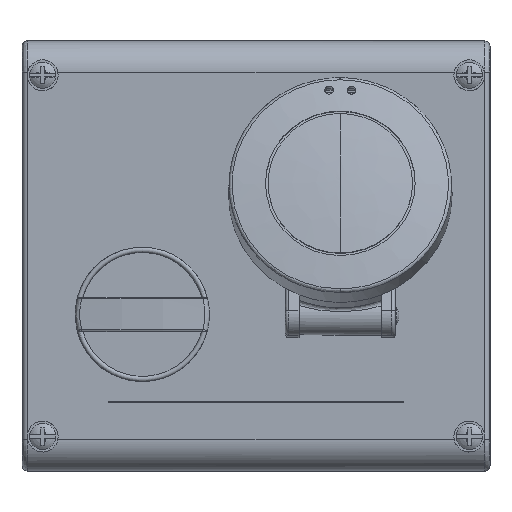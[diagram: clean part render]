
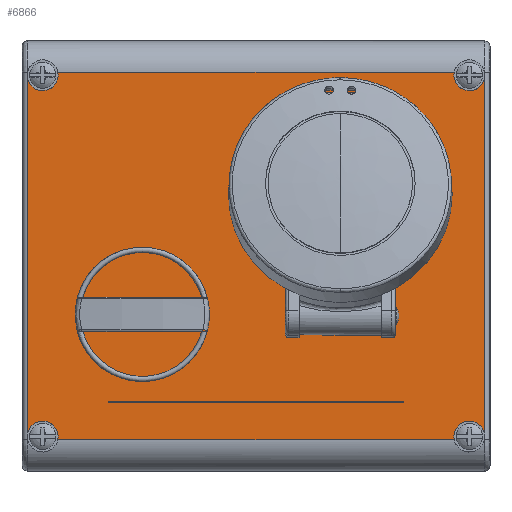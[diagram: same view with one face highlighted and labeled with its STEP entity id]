
A CAD part, top view. The second image highlights one B-rep face of the part: STEP entity #6866.
In plain terms, the highlighted planar face has unit normal (0, 0, 1).
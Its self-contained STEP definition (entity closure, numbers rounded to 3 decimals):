
#5066=PLANE('',#24940);
#5391=FACE_BOUND('',#8605,.T.);
#5392=FACE_BOUND('',#8606,.T.);
#5393=FACE_BOUND('',#8607,.T.);
#5617=CIRCLE('',#24913,4.5);
#5619=CIRCLE('',#24916,4.5);
#5625=CIRCLE('',#24938,4.5);
#5626=CIRCLE('',#24939,4.5);
#6411=B_SPLINE_CURVE_WITH_KNOTS('',3,(#33998,#33999,#34000,#34001,#34002,
#34003,#34004,#34005,#34006,#34007,#34008),.UNSPECIFIED.,.F.,.F.,(4,1,1,
1,1,1,1,1,4),(0.,0.063,0.127,0.253,0.5,
0.747,0.873,0.937,1.),.UNSPECIFIED.);
#6412=B_SPLINE_CURVE_WITH_KNOTS('',3,(#34012,#34013,#34014,#34015,#34016,
#34017,#34018,#34019,#34020,#34021,#34022),.UNSPECIFIED.,.F.,.F.,(4,1,1,
1,1,1,1,1,4),(0.,0.063,0.127,0.253,
0.5,0.747,0.873,0.937,
1.),.UNSPECIFIED.);
#6866=ADVANCED_FACE('',(#5391,#5392,#5393),#5066,.T.);
#8605=EDGE_LOOP('',(#10139,#10140,#10141,#10142,#10143,#10144,#10145,#10146));
#8606=EDGE_LOOP('',(#10147,#10148,#10149,#10150));
#8607=EDGE_LOOP('',(#10151,#10152,#10153,#10154,#10155,#10156,#10157,#10158,
#10159,#10160,#10161,#10162));
#9436=ELLIPSE('',#24825,25.623,24.75);
#9437=ELLIPSE('',#24827,25.623,24.75);
#9438=ELLIPSE('',#24829,25.623,24.75);
#9454=ELLIPSE('',#24865,6.212,6.);
#9458=ELLIPSE('',#24875,1.035,1.);
#9468=ELLIPSE('',#24934,1.035,1.);
#10139=ORIENTED_EDGE('',*,*,#17093,.T.);
#10140=ORIENTED_EDGE('',*,*,#17148,.F.);
#10141=ORIENTED_EDGE('',*,*,#17112,.T.);
#10142=ORIENTED_EDGE('',*,*,#17118,.F.);
#10143=ORIENTED_EDGE('',*,*,#17099,.T.);
#10144=ORIENTED_EDGE('',*,*,#17149,.F.);
#10145=ORIENTED_EDGE('',*,*,#17127,.T.);
#10146=ORIENTED_EDGE('',*,*,#17120,.F.);
#10147=ORIENTED_EDGE('',*,*,#17150,.T.);
#10148=ORIENTED_EDGE('',*,*,#17151,.T.);
#10149=ORIENTED_EDGE('',*,*,#17152,.T.);
#10150=ORIENTED_EDGE('',*,*,#17130,.F.);
#10151=ORIENTED_EDGE('',*,*,#16963,.T.);
#10152=ORIENTED_EDGE('',*,*,#17153,.T.);
#10153=ORIENTED_EDGE('',*,*,#17024,.F.);
#10154=ORIENTED_EDGE('',*,*,#17154,.F.);
#10155=ORIENTED_EDGE('',*,*,#17155,.T.);
#10156=ORIENTED_EDGE('',*,*,#16958,.T.);
#10157=ORIENTED_EDGE('',*,*,#17156,.T.);
#10158=ORIENTED_EDGE('',*,*,#17141,.T.);
#10159=ORIENTED_EDGE('',*,*,#17147,.T.);
#10160=ORIENTED_EDGE('',*,*,#17144,.F.);
#10161=ORIENTED_EDGE('',*,*,#16953,.T.);
#10162=ORIENTED_EDGE('',*,*,#17014,.T.);
#14292=VERTEX_POINT('',#32756);
#14293=VERTEX_POINT('',#32758);
#14297=VERTEX_POINT('',#32781);
#14298=VERTEX_POINT('',#32783);
#14302=VERTEX_POINT('',#32806);
#14303=VERTEX_POINT('',#32808);
#14348=VERTEX_POINT('',#32956);
#14350=VERTEX_POINT('',#32959);
#14401=VERTEX_POINT('',#33353);
#14402=VERTEX_POINT('',#33355);
#14406=VERTEX_POINT('',#33432);
#14407=VERTEX_POINT('',#33434);
#14414=VERTEX_POINT('',#33730);
#14415=VERTEX_POINT('',#33732);
#14419=VERTEX_POINT('',#33911);
#14424=VERTEX_POINT('',#33942);
#14426=VERTEX_POINT('',#33957);
#14427=VERTEX_POINT('',#33959);
#14432=VERTEX_POINT('',#33981);
#14433=VERTEX_POINT('',#33983);
#14434=VERTEX_POINT('',#33988);
#14435=VERTEX_POINT('',#34009);
#14436=VERTEX_POINT('',#34011);
#14437=VERTEX_POINT('',#34025);
#16953=EDGE_CURVE('',#14293,#14292,#9436,.T.);
#16958=EDGE_CURVE('',#14298,#14297,#9437,.T.);
#16963=EDGE_CURVE('',#14303,#14302,#9438,.T.);
#17014=EDGE_CURVE('',#14292,#14303,#9454,.T.);
#17024=EDGE_CURVE('',#14348,#14350,#9458,.T.);
#17093=EDGE_CURVE('',#14402,#14401,#20238,.T.);
#17099=EDGE_CURVE('',#14407,#14406,#20239,.T.);
#17112=EDGE_CURVE('',#14415,#14414,#20240,.T.);
#17118=EDGE_CURVE('',#14407,#14414,#5617,.T.);
#17120=EDGE_CURVE('',#14402,#14419,#5619,.T.);
#17127=EDGE_CURVE('',#14424,#14419,#20242,.T.);
#17130=EDGE_CURVE('',#14426,#14427,#20243,.T.);
#17141=EDGE_CURVE('',#14433,#14432,#20251,.T.);
#17144=EDGE_CURVE('',#14293,#14434,#20254,.T.);
#17147=EDGE_CURVE('',#14432,#14434,#9468,.T.);
#17148=EDGE_CURVE('',#14415,#14401,#5625,.T.);
#17149=EDGE_CURVE('',#14424,#14406,#5626,.T.);
#17150=EDGE_CURVE('',#14426,#14435,#6411,.T.);
#17151=EDGE_CURVE('',#14435,#14436,#20257,.T.);
#17152=EDGE_CURVE('',#14436,#14427,#6412,.T.);
#17153=EDGE_CURVE('',#14302,#14350,#20258,.T.);
#17154=EDGE_CURVE('',#14437,#14348,#20259,.T.);
#17155=EDGE_CURVE('',#14437,#14298,#20260,.T.);
#17156=EDGE_CURVE('',#14297,#14433,#20261,.T.);
#20238=LINE('',#33354,#22093);
#20239=LINE('',#33433,#22094);
#20240=LINE('',#33731,#22095);
#20242=LINE('',#33941,#22097);
#20243=LINE('',#33958,#22098);
#20251=LINE('',#33982,#22106);
#20254=LINE('',#33987,#22109);
#20257=LINE('',#34010,#22112);
#20258=LINE('',#34023,#22113);
#20259=LINE('',#34024,#22114);
#20260=LINE('',#34026,#22115);
#20261=LINE('',#34027,#22116);
#22093=VECTOR('',#26827,1.);
#22094=VECTOR('',#26830,1.);
#22095=VECTOR('',#26837,1.);
#22097=VECTOR('',#26865,1.);
#22098=VECTOR('',#26870,1.);
#22106=VECTOR('',#26890,1.);
#22109=VECTOR('',#26895,1.);
#22112=VECTOR('',#26912,1.);
#22113=VECTOR('',#26913,1.);
#22114=VECTOR('',#26914,1.);
#22115=VECTOR('',#26915,1.);
#22116=VECTOR('',#26916,1.);
#24825=AXIS2_PLACEMENT_3D('',#32757,#26602,#26603);
#24827=AXIS2_PLACEMENT_3D('',#32782,#26608,#26609);
#24829=AXIS2_PLACEMENT_3D('',#32807,#26614,#26615);
#24865=AXIS2_PLACEMENT_3D('',#32938,#26709,#26710);
#24875=AXIS2_PLACEMENT_3D('',#32958,#26732,#26733);
#24913=AXIS2_PLACEMENT_3D('',#33906,#26843,#26844);
#24916=AXIS2_PLACEMENT_3D('',#33910,#26849,#26850);
#24934=AXIS2_PLACEMENT_3D('',#33992,#26900,#26901);
#24938=AXIS2_PLACEMENT_3D('',#33996,#26908,#26909);
#24939=AXIS2_PLACEMENT_3D('',#33997,#26910,#26911);
#24940=AXIS2_PLACEMENT_3D('',#34028,#26917,#26918);
#26602=DIRECTION('',(0.,0.,-1.));
#26603=DIRECTION('',(0.,-1.,0.));
#26608=DIRECTION('',(0.,0.,-1.));
#26609=DIRECTION('',(0.,-1.,0.));
#26614=DIRECTION('',(0.,0.,-1.));
#26615=DIRECTION('',(0.,-1.,0.));
#26709=DIRECTION('',(0.,0.,-1.));
#26710=DIRECTION('',(0.,-1.,0.));
#26732=DIRECTION('',(0.,0.,1.));
#26733=DIRECTION('',(0.,-1.,0.));
#26827=DIRECTION('',(1.,0.,0.));
#26830=DIRECTION('',(-1.,0.,0.));
#26837=DIRECTION('',(0.,1.,0.));
#26843=DIRECTION('',(0.,0.,1.));
#26844=DIRECTION('',(1.,0.,0.));
#26849=DIRECTION('',(0.,0.,1.));
#26850=DIRECTION('',(1.,0.,0.));
#26865=DIRECTION('',(0.,-1.,0.));
#26870=DIRECTION('',(1.,0.,0.));
#26890=DIRECTION('',(-1.,0.,0.));
#26895=DIRECTION('',(0.,-1.,0.));
#26900=DIRECTION('',(0.,0.,-1.));
#26901=DIRECTION('',(0.,-1.,0.));
#26908=DIRECTION('',(0.,0.,1.));
#26909=DIRECTION('',(1.,0.,0.));
#26910=DIRECTION('',(0.,0.,1.));
#26911=DIRECTION('',(1.,0.,0.));
#26912=DIRECTION('',(1.,0.,0.));
#26913=DIRECTION('',(0.,-1.,0.));
#26914=DIRECTION('',(1.,0.,0.));
#26915=DIRECTION('',(0.,1.,0.));
#26916=DIRECTION('',(0.,-1.,0.));
#26917=DIRECTION('',(0.,0.,1.));
#26918=DIRECTION('',(-1.,0.,0.));
#32756=CARTESIAN_POINT('',(18.881,38.454,16.));
#32757=CARTESIAN_POINT('',(24.5,13.5,16.));
#32758=CARTESIAN_POINT('',(8.5,-6.049,16.));
#32781=CARTESIAN_POINT('',(12.5,-8.91,16.));
#32782=CARTESIAN_POINT('',(24.5,13.5,16.));
#32783=CARTESIAN_POINT('',(36.5,-8.91,16.));
#32806=CARTESIAN_POINT('',(40.5,-6.049,16.));
#32807=CARTESIAN_POINT('',(24.5,13.5,16.));
#32808=CARTESIAN_POINT('',(30.119,38.454,16.));
#32938=CARTESIAN_POINT('',(24.5,36.276,16.));
#32956=CARTESIAN_POINT('',(39.5,-21.332,16.));
#32958=CARTESIAN_POINT('',(39.5,-20.297,16.));
#32959=CARTESIAN_POINT('',(40.5,-20.297,16.));
#33353=CARTESIAN_POINT('',(57.599,-53.439,16.));
#33354=CARTESIAN_POINT('',(-57.599,-53.439,16.));
#33355=CARTESIAN_POINT('',(-57.599,-53.439,16.));
#33432=CARTESIAN_POINT('',(-57.599,53.439,16.));
#33433=CARTESIAN_POINT('',(57.599,53.439,16.));
#33434=CARTESIAN_POINT('',(57.599,53.439,16.));
#33730=CARTESIAN_POINT('',(66.373,51.44,16.));
#33731=CARTESIAN_POINT('',(66.373,-51.44,16.));
#33732=CARTESIAN_POINT('',(66.373,-51.44,16.));
#33906=CARTESIAN_POINT('',(62.,52.5,16.));
#33910=CARTESIAN_POINT('',(-62.,-52.5,16.));
#33911=CARTESIAN_POINT('',(-66.373,-51.44,16.));
#33941=CARTESIAN_POINT('',(-66.373,51.44,16.));
#33942=CARTESIAN_POINT('',(-66.373,51.44,16.));
#33957=CARTESIAN_POINT('',(-42.875,-42.5,16.));
#33958=CARTESIAN_POINT('',(-42.875,-42.5,16.));
#33959=CARTESIAN_POINT('',(42.875,-42.5,16.));
#33981=CARTESIAN_POINT('',(9.5,-21.332,16.));
#33982=CARTESIAN_POINT('',(12.5,-21.332,16.));
#33983=CARTESIAN_POINT('',(12.5,-21.332,16.));
#33987=CARTESIAN_POINT('',(8.5,-6.049,16.));
#33988=CARTESIAN_POINT('',(8.5,-20.297,16.));
#33992=CARTESIAN_POINT('',(9.5,-20.297,16.));
#33996=CARTESIAN_POINT('',(62.,-52.5,16.));
#33997=CARTESIAN_POINT('',(-62.,52.5,16.));
#33998=CARTESIAN_POINT('',(-42.875,-42.5,16.));
#33999=CARTESIAN_POINT('',(-42.883,-42.5,16.));
#34000=CARTESIAN_POINT('',(-42.9,-42.498,16.));
#34001=CARTESIAN_POINT('',(-42.931,-42.489,16.));
#34002=CARTESIAN_POINT('',(-42.979,-42.457,16.));
#34003=CARTESIAN_POINT('',(-43.014,-42.375,16.));
#34004=CARTESIAN_POINT('',(-42.979,-42.293,16.));
#34005=CARTESIAN_POINT('',(-42.931,-42.261,16.));
#34006=CARTESIAN_POINT('',(-42.9,-42.252,16.));
#34007=CARTESIAN_POINT('',(-42.883,-42.25,16.));
#34008=CARTESIAN_POINT('',(-42.875,-42.25,16.));
#34009=CARTESIAN_POINT('',(-42.875,-42.25,16.));
#34010=CARTESIAN_POINT('',(42.875,-42.25,16.));
#34011=CARTESIAN_POINT('',(42.875,-42.25,16.));
#34012=CARTESIAN_POINT('',(42.875,-42.25,16.));
#34013=CARTESIAN_POINT('',(42.883,-42.25,16.));
#34014=CARTESIAN_POINT('',(42.9,-42.252,16.));
#34015=CARTESIAN_POINT('',(42.931,-42.261,16.));
#34016=CARTESIAN_POINT('',(42.979,-42.293,16.));
#34017=CARTESIAN_POINT('',(43.014,-42.375,16.));
#34018=CARTESIAN_POINT('',(42.979,-42.457,16.));
#34019=CARTESIAN_POINT('',(42.931,-42.489,16.));
#34020=CARTESIAN_POINT('',(42.9,-42.498,16.));
#34021=CARTESIAN_POINT('',(42.883,-42.5,16.));
#34022=CARTESIAN_POINT('',(42.875,-42.5,16.));
#34023=CARTESIAN_POINT('',(40.5,-6.049,16.));
#34024=CARTESIAN_POINT('',(36.5,-21.332,16.));
#34025=CARTESIAN_POINT('',(36.5,-21.332,16.));
#34026=CARTESIAN_POINT('',(36.5,-8.91,16.));
#34027=CARTESIAN_POINT('',(12.5,-8.91,16.));
#34028=CARTESIAN_POINT('',(-81.6,-75.,16.));
